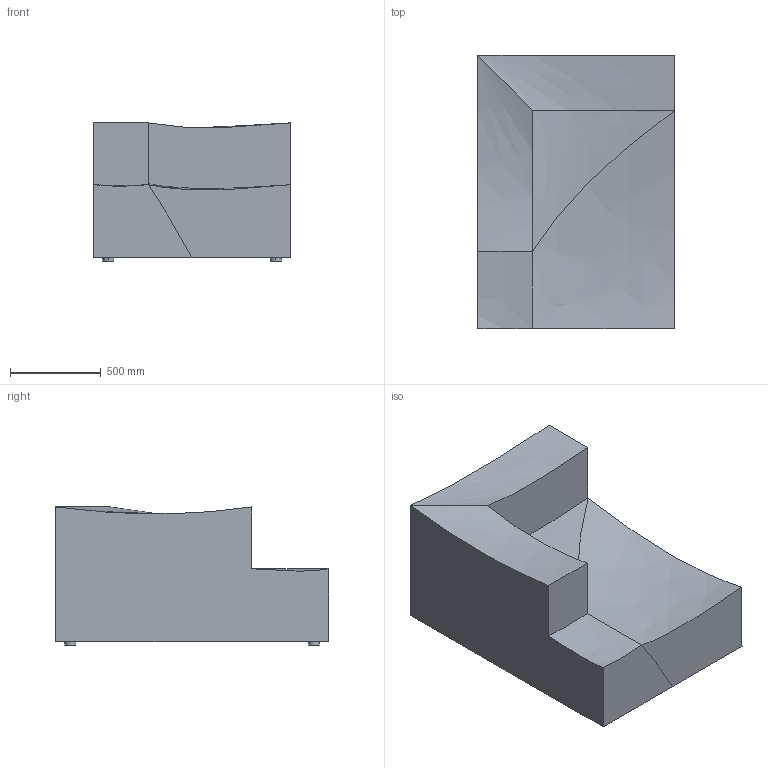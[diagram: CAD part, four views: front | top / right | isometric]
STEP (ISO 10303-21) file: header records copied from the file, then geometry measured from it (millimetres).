
FILE_DESCRIPTION(/* description */ (''),/* implementation_level */ '2;1');
FILE_NAME(/* name */ 'Catena Chaise Longue - Large - left - L600_3D',/* time_stamp */ '2022-06-03T16:25:13+02:00',/* author */ (''),/* organization */ (''),/* preprocessor_version */ 'ST-DEVELOPER v16.5',/* originating_system */ 'Rhino 7.18',/* authorisation */ '');
FILE_SCHEMA (('CONFIG_CONTROL_DESIGN'));
Length unit declared in the file: millimetre
Products named in the file (1): Document
Bounding box: 1080.24 x 1501.35 x 760.4 mm (x, y, z)
Volume: 452834.8 mm3; surface area: 13364690.3 mm2
Topology: 8 solids, 10 shells, 60 faces, 114 edges, 72 vertices
Faces by surface type: bspline 24, plane 20, cylinder 16
Entity records: 1738 total; most frequent: CARTESIAN_POINT 837, ORIENTED_EDGE 222, EDGE_CURVE 114, VERTEX_POINT 72, B_SPLINE_CURVE_WITH_KNOTS 66, ADVANCED_FACE 60, FACE_OUTER_BOUND 60, EDGE_LOOP 60
